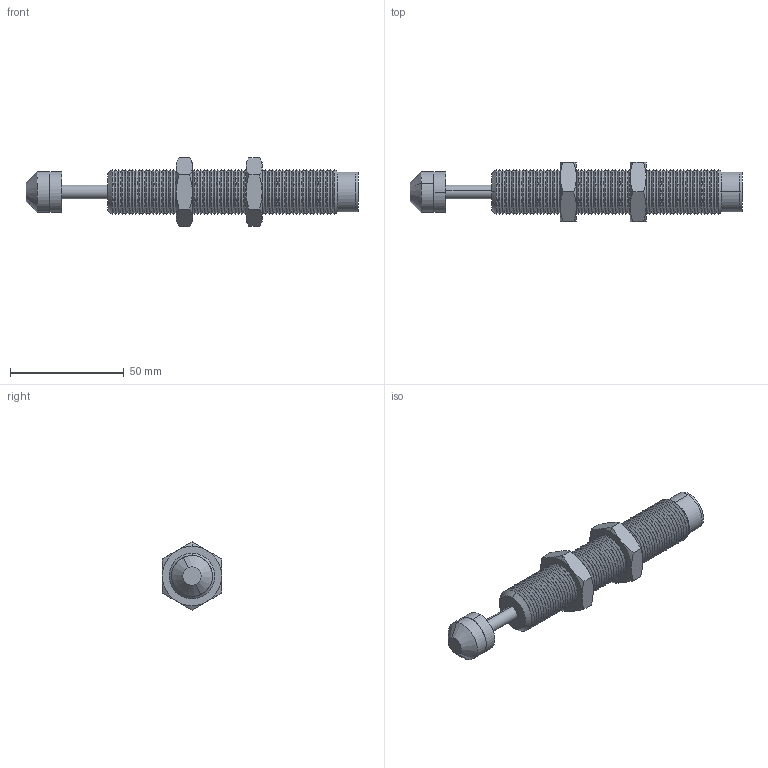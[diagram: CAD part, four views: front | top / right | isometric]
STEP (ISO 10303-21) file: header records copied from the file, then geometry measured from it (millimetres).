
FILE_DESCRIPTION (( 'STEP AP203' ), '1' );
FILE_NAME ('68002.W0201.step', '2017-02-27T15:52:14', ( 'User' ), ( '' ), 'SwSTEP 2.0', 'SolidWorks 2009', '' );
FILE_SCHEMA (( 'CONFIG_CONTROL_DESIGN' ));
Length unit declared in the file: millimetre
Products named in the file (8): Part3_68002.W0201; Part4_68002.W0201; Part2_68002.W0201; Part1_68002.W0201; 68002.W0201; Part6_68002.W0201; Part5_68002.W0201; Part7_68002.W0201
Assembly tree (8 placements, depth 2):
  68002.W0201
    Part2_68002.W0201
    Part3_68002.W0201
    Part4_68002.W0201
    Part5_68002.W0201
    Part7_68002.W0201
    Part1_68002.W0201
    Part6_68002.W0201  x2
Bounding box: 145.8 x 26 x 30.02 mm (x, y, z)
Volume: 37031.4 mm3; surface area: 20018.5 mm2
Topology: 8 solids, 8 shells, 367 faces, 740 edges, 391 vertices
Faces by surface type: cone 296, plane 43, cylinder 26, torus 2
Entity records: 9636 total; most frequent: DIRECTION 1708, CARTESIAN_POINT 1545, ORIENTED_EDGE 1372, AXIS2_PLACEMENT_3D 692, EDGE_CURVE 686, VERTEX_POINT 361, EDGE_LOOP 353, FACE_OUTER_BOUND 343
